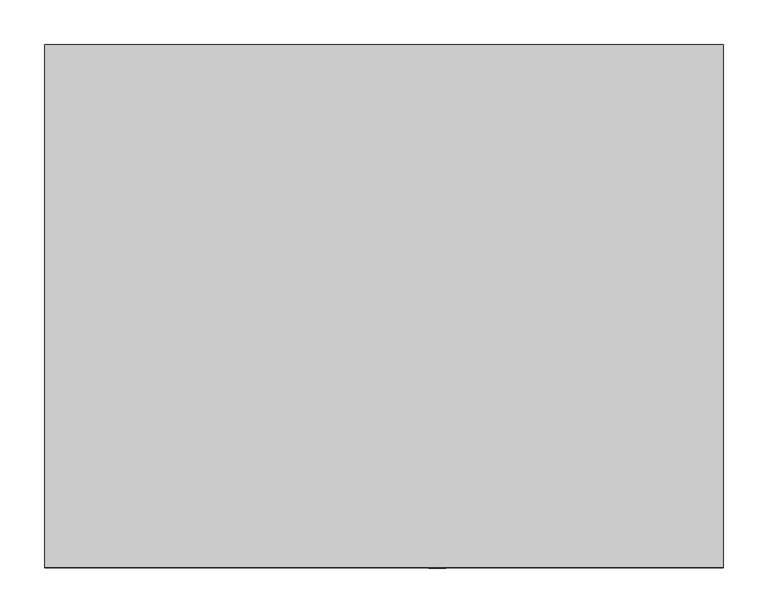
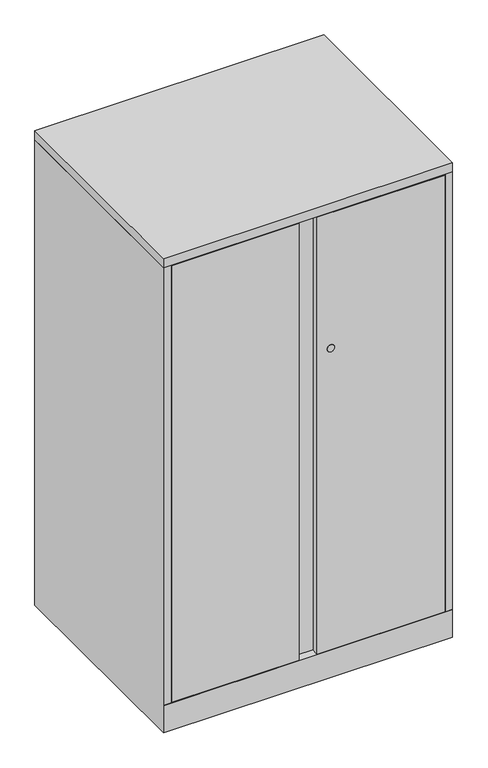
"""IFC4 building model written with IfcOpenShell, lengths in millimetres: furniture geometry, Steelcase - Universal Storage - Cabinet - Storage - 40H-52H - Flush Steel : 52H x 23 1/8D x 30W."""

from ifc_helpers import new_model, si_unit, point, frame, frame_2d, origin, place, context, project, spatial, polyline, circle_curve, trimmed, segment, composite_curve, outline, extrude, faceted_brep, source, transform, mapped, element, save


def furniture_3954c76a(model_context):
    return source(origin(), model_context, "Body", "SolidModel", [
        extrude(outline(polyline([(762.0, 0.0), (762.0, -587.502), (0.0, -587.502), (0.0, 0.0), (762.0, 0.0)])), frame((0.0, 0.0, 1295.4), z_axis=(0.0, 0.0, 1.0), x_axis=(1.0, 0.0, 0.0)), (0.0, 0.0, 1.0), 25.4000484),
        extrude(outline(composite_curve([segment(trimmed(circle_curve(frame_2d((917.575, 440.8109835)), 9.7167829), [point((917.575, 450.5277664))], [point((917.575, 431.0942006))], False, "CARTESIAN"), True, "CONTINUOUS"), segment(trimmed(circle_curve(frame_2d((917.575, 440.8109835)), 9.7167829), [point((917.575, 431.0942006))], [point((917.575, 450.5277664))], False, "CARTESIAN"), True, "CONTINUOUS")], self_intersect=False)), frame((0.0, -588.1715275, 0.0), z_axis=(0.0, 1.0, 0.0), x_axis=(0.0, 0.0, 1.0)), (0.0, 0.0, 1.0), 0.6695275),
        extrude(outline(polyline([(20.8280006, -561.975866), (741.172, -561.975866), (741.172, -587.502), (405.13, -587.502), (405.13, -568.3258781), (356.87, -568.3258781), (356.87, -587.502), (20.8280006, -587.502), (20.8280006, -561.975866)])), frame((0.0, 0.0, 77.724), z_axis=(0.0, 0.0, 1.0), x_axis=(1.0, 0.0, 0.0)), (0.0, 0.0, 1.0), 1216.406),
        faceted_brep([(762.0, 0.0, 0.0), (762.0, -587.502, 0.0), (0.0, -587.502, 0.0), (0.0, 0.0, 0.0), (0.0, 0.0, 1295.4), (762.0, 0.0, 1295.4), (0.0, -587.502, 76.2), (0.0, -587.502, 77.724), (0.0, -587.502, 1295.4), (762.0, -587.502, 76.2), (762.0, -587.502, 1295.4), (762.0, -587.502, 77.724), (736.6000242, -25.4000008, 1295.4), (736.6000242, -560.4518674, 1295.4), (741.172, -560.4518674, 1295.4), (741.172, -561.9758781, 1295.4), (742.696, -561.9758781, 1295.4), (742.696, -587.502, 1295.4), (19.304, -587.502, 1295.4), (19.304, -561.975866, 1295.4), (20.8280006, -561.975866, 1295.4), (20.8280006, -560.4518674, 1295.4), (25.4000008, -560.4518674, 1295.4), (25.4000008, -25.4000008, 1295.4), (19.304, -587.502, 77.724), (19.304, -568.198, 77.724), (742.696, -587.502, 77.724), (742.696, -568.0718418, 77.724), (736.6000242, -25.4000008, 77.724), (736.6000242, -560.4518674, 77.724), (741.172, -560.4518674, 77.724), (741.172, -561.9758781, 77.724), (742.696, -561.9758781, 77.724), (19.304, -561.975866, 77.724), (20.8280006, -561.975866, 77.724), (20.8280006, -560.4518674, 77.724), (25.4000008, -560.4518674, 77.724), (25.4000008, -25.4000008, 77.724), (25.526134, -561.975866, 77.724), (736.6000242, -561.975866, 77.724)], [[[0, 1, 2, 3]], [[0, 3, 4, 5]], [[4, 3, 2, 6, 7, 8]], [[2, 1, 9, 6]], [[1, 0, 5, 10, 11, 9]], [[12, 13, 14, 15, 16, 17, 10, 5, 4, 8, 18, 19, 20, 21, 22, 23]], [[24, 7, 25]], [[11, 26, 27]], [[13, 12, 28, 29]], [[14, 13, 29, 30]], [[15, 14, 30, 31]], [[16, 15, 31, 32]], [[17, 16, 32, 27, 26]], [[10, 17, 26, 11]], [[18, 8, 7, 24]], [[19, 18, 24, 25, 33]], [[20, 19, 33, 34]], [[21, 20, 34, 35]], [[22, 21, 35, 36]], [[23, 22, 36, 37]], [[12, 23, 37, 28]], [[38, 39, 27, 32, 31, 30, 29, 28, 37, 36, 35, 34, 33, 25]], [[7, 6, 38, 25]], [[39, 38, 6, 9]], [[39, 9, 11, 27]]]),
    ])


if __name__ == "__main__":
    model = new_model("IFC4")
    model_context = context("Model", 3, world=origin())
    ifc_project = project(units=[si_unit("LENGTHUNIT", "METRE", prefix="MILLI")], contexts=[model_context])
    site = spatial("IfcSite", under=ifc_project)
    building = spatial("IfcBuilding", under=site)
    placement = place(None, origin())
    furniture_shape = furniture_3954c76a(model_context)
    element("IfcFurniture", 1, ObjectType="Steelcase - Universal Storage - Cabinet - Storage - 40H-52H - Flush Steel : 52H x 23 1/8D x 30W", at=placement, inside=building, context=model_context, shape_type="MappedRepresentation", body=[
        mapped(furniture_shape, transform((0.0, 0.0, 0.0), x_axis=(1.0, 0.0, 0.0), y_axis=(0.0, 1.0, 0.0), z_axis=(0.0, 0.0, 1.0))),
    ])
    save(model, "model.ifc")
